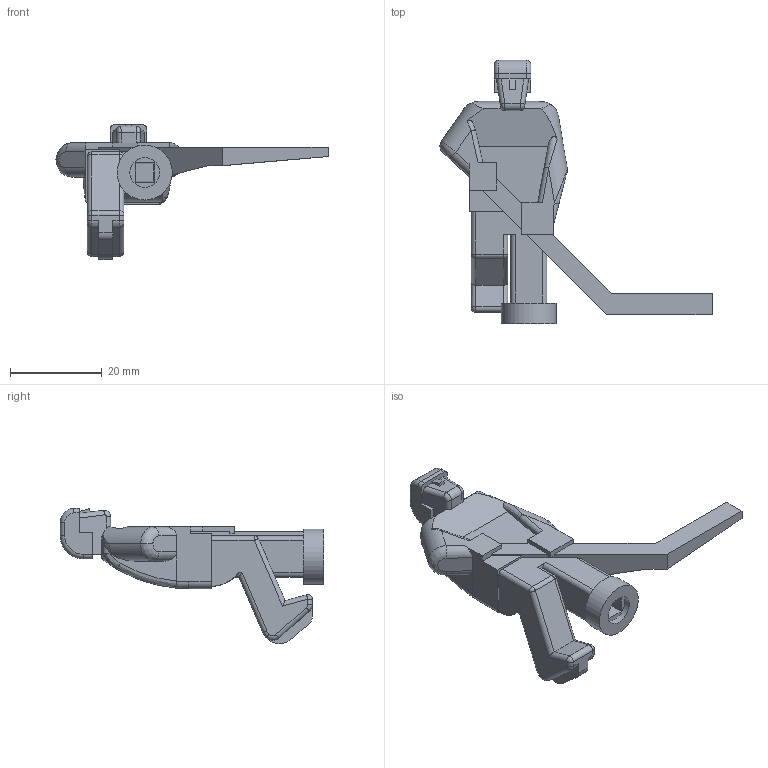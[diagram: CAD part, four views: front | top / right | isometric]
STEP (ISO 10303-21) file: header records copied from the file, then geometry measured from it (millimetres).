
FILE_DESCRIPTION (( 'STEP AP203' ), '1' );
FILE_NAME ('羻膮樘嚦.STEP', '2021-11-25T05:07:35', ( '' ), ( '' ), 'SwSTEP 2.0', 'SolidWorks 2020', '' );
FILE_SCHEMA (( 'CONFIG_CONTROL_DESIGN' ));
Length unit declared in the file: millimetre
Products named in the file (1): 羻膮樘嚦
Bounding box: 59.37 x 57.5 x 29.5 mm (x, y, z)
Volume: 10374.9 mm3; surface area: 5093.8 mm2
Topology: 1 solids, 1 shells, 181 faces, 465 edges, 285 vertices
Faces by surface type: plane 80, cylinder 63, bspline 22, torus 11, sphere 5
Full cylindrical faces by diameter (mm): 6.5 x1, 12 x1
Entity records: 5955 total; most frequent: CARTESIAN_POINT 1758, ORIENTED_EDGE 918, DIRECTION 799, EDGE_CURVE 459, VERTEX_POINT 285, LINE 267, VECTOR 267, AXIS2_PLACEMENT_3D 266
